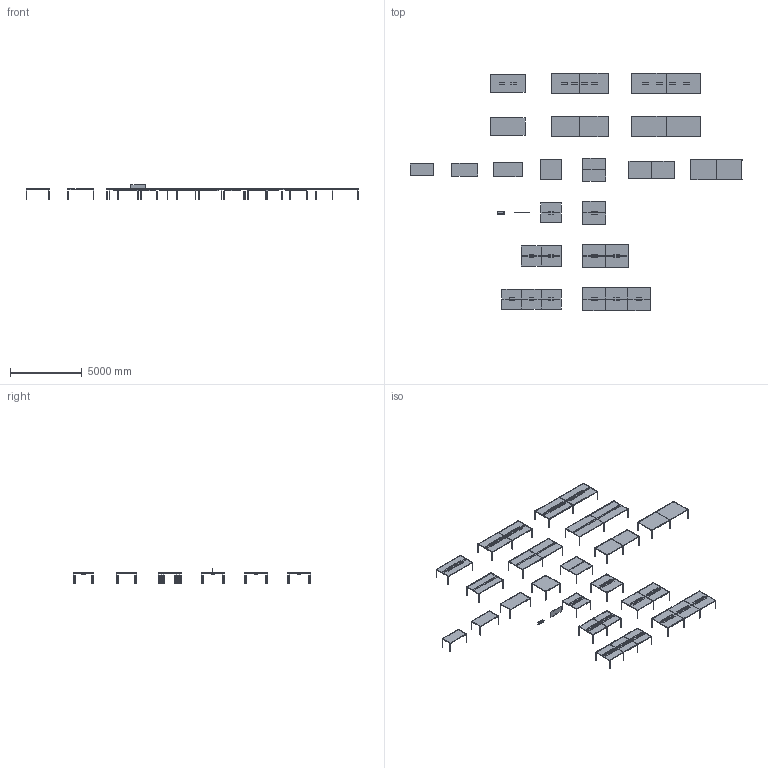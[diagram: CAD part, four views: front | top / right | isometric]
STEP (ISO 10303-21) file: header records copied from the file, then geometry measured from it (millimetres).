
FILE_DESCRIPTION(/* description */ (''),/* implementation_level */ '2;1');
FILE_NAME(/* name */ 'TRUE_Sarek_3D',/* time_stamp */ '2026-09-29T14:10:18+02:00',/* author */ (''),/* organization */ (''),/* preprocessor_version */ 'ST-DEVELOPER v16.5',/* originating_system */ '',/* authorisation */ '');
FILE_SCHEMA (('CONFIG_CONTROL_DESIGN'));
Products named in the file (1): Document
Bounding box: 23080 x 16500 x 1028.5 mm (x, y, z)
Volume: 1293131533.6 mm3; surface area: 214500047.2 mm2
Topology: 432 solids, 432 shells, 4271 faces, 10242 edges, 6856 vertices
Faces by surface type: plane 2907, cylinder 1364
Entity records: 107233 total; most frequent: CARTESIAN_POINT 38112, ORIENTED_EDGE 20442, EDGE_CURVE 10221, VERTEX_POINT 6814, B_SPLINE_CURVE_WITH_KNOTS 4946, EDGE_LOOP 4327, DIRECTION 4277, AXIS2_PLACEMENT_3D 4274
